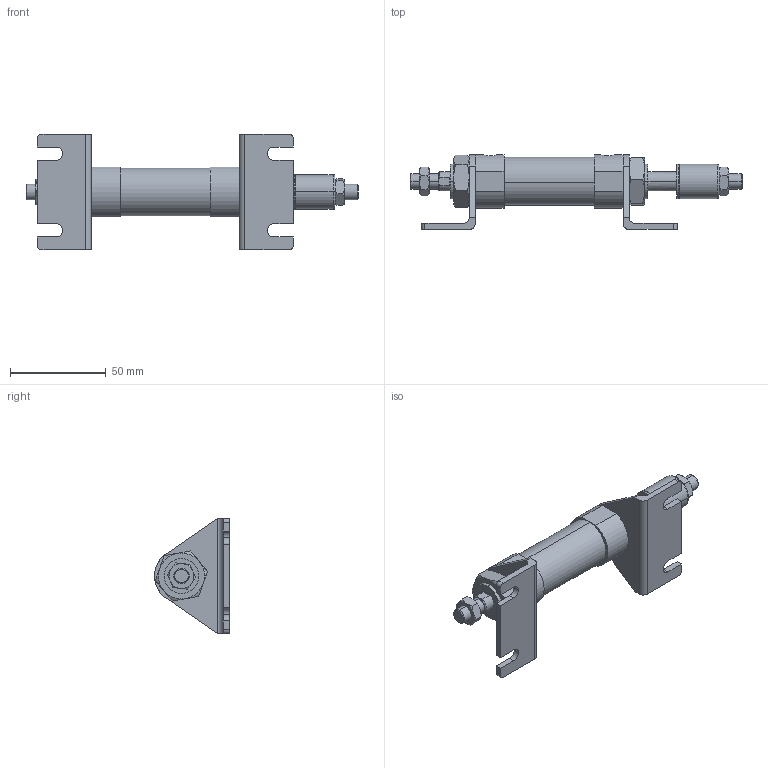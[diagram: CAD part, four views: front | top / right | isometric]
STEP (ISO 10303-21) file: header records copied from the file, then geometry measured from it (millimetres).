
FILE_DESCRIPTION (( 'STEP AP203' ), '1' );
FILE_NAME ('JGA7-20-15-L.STEP', '2016-04-20T01:19:42', ( '' ), ( '' ), 'SwSTEP 2.0', 'SolidWorks 2014', '' );
FILE_SCHEMA (( 'CONFIG_CONTROL_DESIGN' ));
Length unit declared in the file: millimetre
Products named in the file (8): JGLH2-20B; J#2-20-L; M8x1.25-5mm; M18x1.5-8mm; 20-15; JGA7-20A-15; JGA7-20-Turn; JGA7-20-15-L
Assembly tree (10 placements, depth 2):
  JGA7-20-15-L
    JGLH2-20B
    20-15
    JGA7-20A-15
    M8x1.25-5mm  x2
    M18x1.5-8mm  x2
    J#2-20-L  x2
    JGA7-20-Turn
Bounding box: 173 x 39 x 60 mm (x, y, z)
Volume: 76995 mm3; surface area: 32636.3 mm2
Topology: 10 solids, 10 shells, 221 faces, 502 edges, 314 vertices
Faces by surface type: plane 95, cylinder 68, torus 50, cone 8
Entity records: 5519 total; most frequent: CARTESIAN_POINT 1230, DIRECTION 743, ORIENTED_EDGE 666, EDGE_CURVE 333, AXIS2_PLACEMENT_3D 307, VERTEX_POINT 210, EDGE_LOOP 171, FACE_OUTER_BOUND 150
